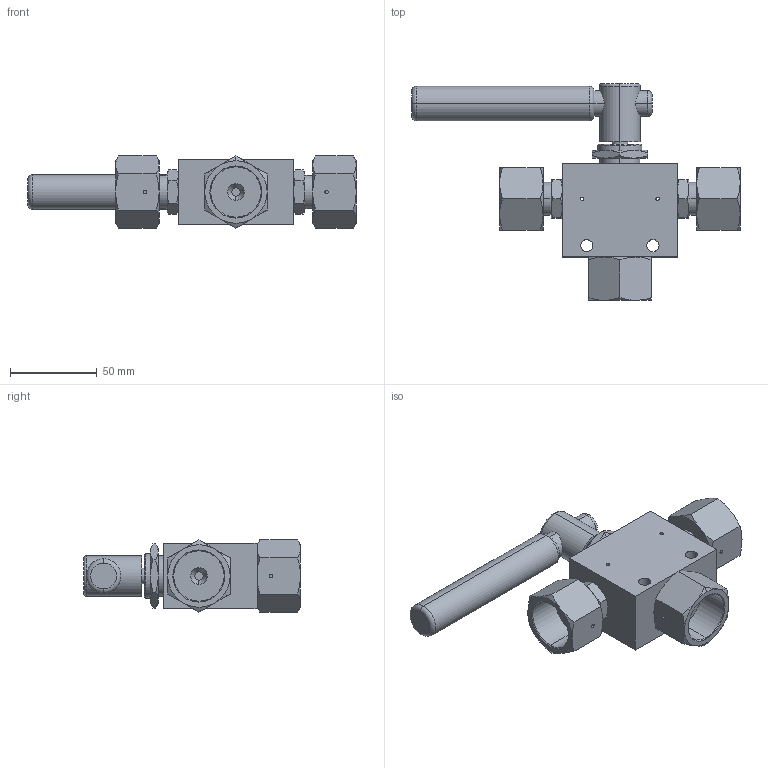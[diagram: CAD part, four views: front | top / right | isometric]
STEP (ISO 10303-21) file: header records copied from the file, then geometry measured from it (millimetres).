
FILE_DESCRIPTION (( 'STEP AP203' ), '1' );
FILE_NAME ('BV6003S09-3-180.STEP', '2022-04-12T10:14:26', ( '' ), ( '' ), 'SwSTEP 2.0', 'SolidWorks 2020', '' );
FILE_SCHEMA (( 'CONFIG_CONTROL_DESIGN' ));
Length unit declared in the file: millimetre
Products named in the file (1): BV6003S09-3-180
Bounding box: 189.33 x 125 x 41.57 mm (x, y, z)
Volume: 241924.7 mm3; surface area: 50681.6 mm2
Topology: 1 solids, 1 shells, 212 faces, 466 edges, 274 vertices
Faces by surface type: cone 94, plane 62, cylinder 48, torus 8
Entity records: 6649 total; most frequent: CARTESIAN_POINT 2081, ORIENTED_EDGE 924, DIRECTION 924, EDGE_CURVE 462, AXIS2_PLACEMENT_3D 403, VERTEX_POINT 274, EDGE_LOOP 248, FACE_OUTER_BOUND 212
